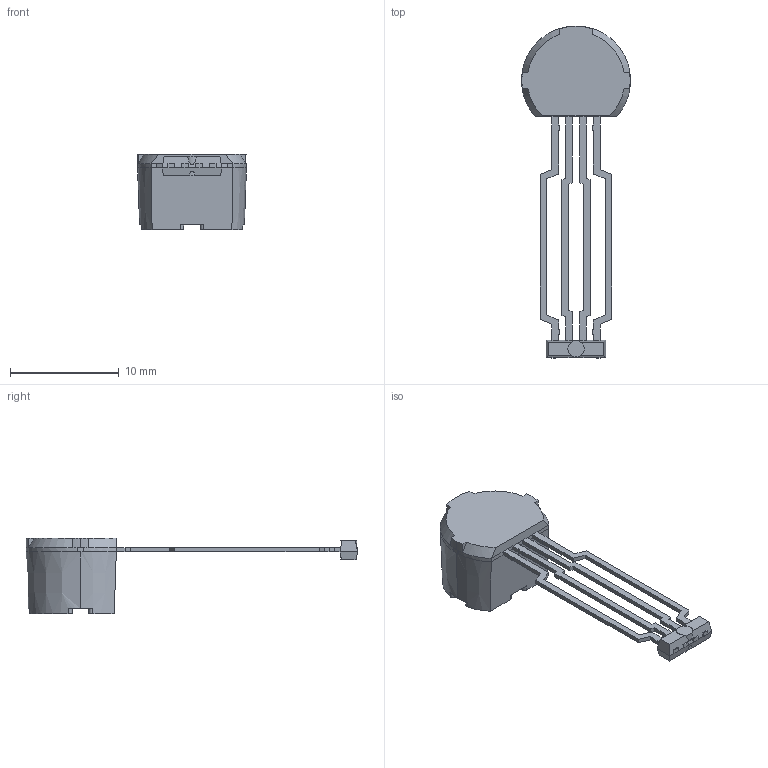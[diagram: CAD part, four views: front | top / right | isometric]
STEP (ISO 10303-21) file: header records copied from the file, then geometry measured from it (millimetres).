
FILE_DESCRIPTION (( 'STEP AP214' ), '1' );
FILE_NAME ('SE.STEP', '2016-11-10T21:55:41', ( '' ), ( '' ), 'SwSTEP 2.0', 'SolidWorks 2015', '' );
FILE_SCHEMA (( 'AUTOMOTIVE_DESIGN' ));
Length unit declared in the file: millimetre
Products named in the file (2): SE Mold; SE
Assembly tree (1 placements, depth 2):
  SE
    SE Mold
Bounding box: 10.1 x 30.5 x 6.98 mm (x, y, z)
Volume: 308.5 mm3; surface area: 781.9 mm2
Topology: 1 solids, 3 shells, 241 faces, 655 edges, 416 vertices
Faces by surface type: plane 195, cylinder 25, cone 15, bspline 6
Entity records: 7639 total; most frequent: CARTESIAN_POINT 1616, ORIENTED_EDGE 1310, DIRECTION 1149, EDGE_CURVE 655, VECTOR 511, LINE 511, VERTEX_POINT 416, AXIS2_PLACEMENT_3D 319
